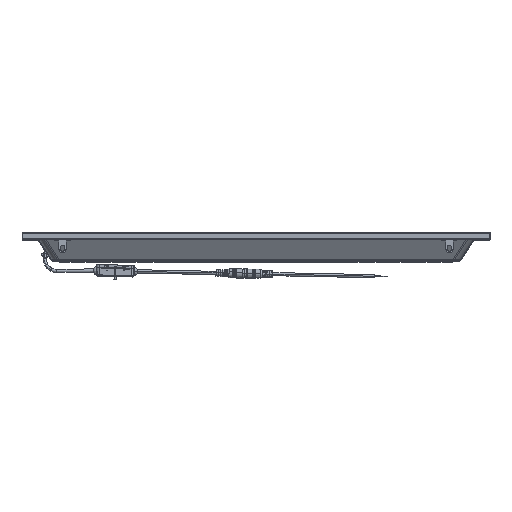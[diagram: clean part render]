
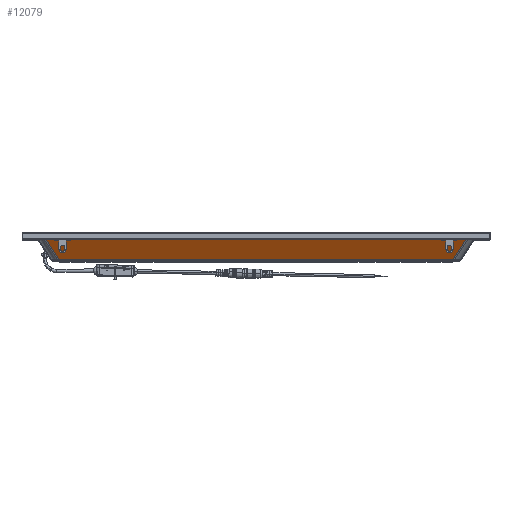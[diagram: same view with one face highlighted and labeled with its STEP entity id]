
A CAD part, top view. The second image highlights one B-rep face of the part: STEP entity #12079.
In plain terms, the highlighted planar face has unit normal (0, -0.545, 0.839).
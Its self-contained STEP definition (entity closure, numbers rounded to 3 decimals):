
#12079=ADVANCED_FACE('NONE',(#19169),#15962,.T.);
#15962=PLANE('',#89139);
#19169=FACE_OUTER_BOUND('',#24212,.T.);
#24212=EDGE_LOOP('',(#36866,#36867,#36868,#36869));
#36866=ORIENTED_EDGE('',*,*,#65520,.T.);
#36867=ORIENTED_EDGE('',*,*,#65492,.T.);
#36868=ORIENTED_EDGE('',*,*,#65521,.T.);
#36869=ORIENTED_EDGE('',*,*,#65522,.T.);
#55794=VERTEX_POINT('',#142218);
#55798=VERTEX_POINT('',#142273);
#55815=VERTEX_POINT('',#142808);
#55816=VERTEX_POINT('',#142810);
#65492=EDGE_CURVE('NONE',#55794,#55798,#75533,.T.);
#65520=EDGE_CURVE('NONE',#55815,#55794,#75543,.T.);
#65521=EDGE_CURVE('NONE',#55798,#55816,#75544,.T.);
#65522=EDGE_CURVE('NONE',#55816,#55815,#75545,.T.);
#75533=LINE('',#142274,#81871);
#75543=LINE('',#142807,#81881);
#75544=LINE('',#142809,#81882);
#75545=LINE('',#142811,#81883);
#81871=VECTOR('',#102205,1.);
#81881=VECTOR('',#102241,1.);
#81882=VECTOR('',#102242,1.);
#81883=VECTOR('',#102243,1.);
#89139=AXIS2_PLACEMENT_3D('',#142812,#102244,#102245);
#102205=DIRECTION('',(-1.,0.,0.));
#102241=DIRECTION('',(0.478,0.737,0.478));
#102242=DIRECTION('',(0.478,-0.737,-0.478));
#102243=DIRECTION('',(1.,0.,0.));
#102244=DIRECTION('',(0.,-0.545,0.839));
#102245=DIRECTION('',(0.,-0.839,-0.545));
#142218=CARTESIAN_POINT('',(270.236,15.554,280.3));
#142273=CARTESIAN_POINT('',(-270.236,15.554,280.3));
#142274=CARTESIAN_POINT('',(-280.85,15.554,280.3));
#142807=CARTESIAN_POINT('',(144.588,-177.928,154.652));
#142808=CARTESIAN_POINT('',(250.373,-15.034,260.437));
#142809=CARTESIAN_POINT('',(-273.088,19.945,283.152));
#142810=CARTESIAN_POINT('',(-250.373,-15.034,260.437));
#142811=CARTESIAN_POINT('',(-280.85,-15.034,260.437));
#142812=CARTESIAN_POINT('',(-280.85,16.4,280.85));
